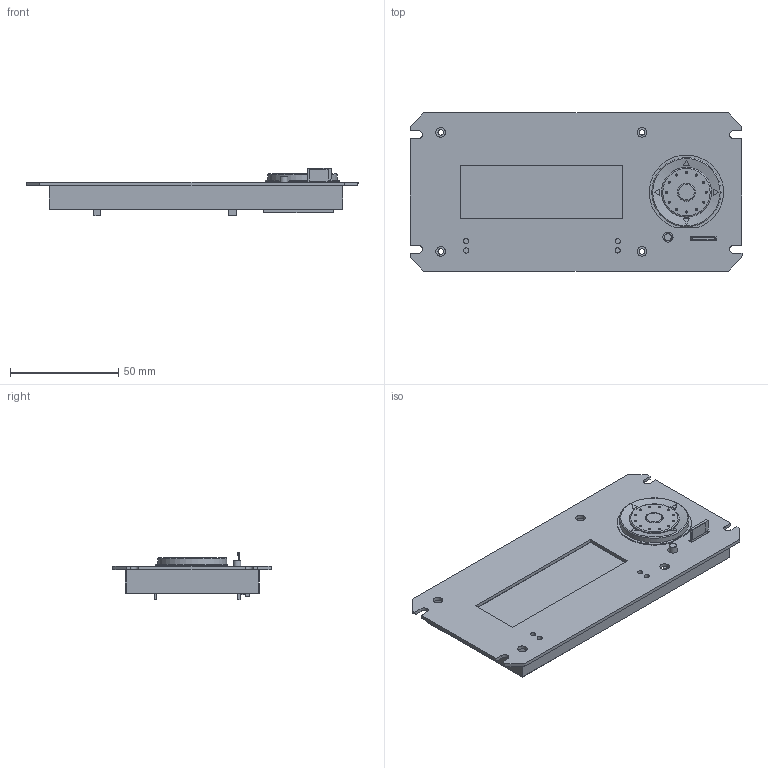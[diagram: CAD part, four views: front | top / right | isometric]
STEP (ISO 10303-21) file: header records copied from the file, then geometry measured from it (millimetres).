
FILE_DESCRIPTION((''),'2;1');
FILE_NAME('J:\_PROJECTS\RepRap\LCD\ViKi LCD.stp','2013-01-14T23:31:16',('roy'),(''),'Autodesk Inventor 2012','Autodesk Inventor 2012','');
FILE_SCHEMA(('AUTOMOTIVE_DESIGN { 1 0 10303 214 1 1 1 1 }'));
Length unit declared in the file: inch
Products named in the file (12): LCD Panel; TSWB-3N-CB222 LFS; JHD20x4; Main PCB; TF slot assm; User Library-Micro_SD; 473093751; 473093751_1; pin_header_a-sl254-dg-g04mp1; TF PCB; FSMRA7JH
Assembly tree (12 placements, depth 4):
  LCD Panel
    TSWB-3N-CB222 LFS
    JHD20x4
    Main PCB
    TF slot assm
      User Library-Micro_SD
      473093751
        473093751
        473093751_1
      pin_header_a-sl254-dg-g04mp1  x2
      TF PCB
      FSMRA7JH
Bounding box: 153.42 x 73.15 x 22.06 mm (x, y, z)
Volume: 65917.8 mm3; surface area: 48609.2 mm2
Topology: 10 solids, 10 shells, 1792 faces, 5254 edges, 3669 vertices
Faces by surface type: plane 1355, cylinder 291, bspline 132, torus 9, cone 5
Full cylindrical faces by diameter (mm): 0.233 x1, 0.411 x1, 0.94 x4, 0.95 x16, 2.398 x4, 2.5 x4, 3.505 x1, 4.445 x4, 4.686 x1, 8.1 x1, 8.306 x1, 22.9 x1, 23.124 x1, 31.951 x1, 32 x1
Entity records: 62028 total; most frequent: CARTESIAN_POINT 15624, ORIENTED_EDGE 9384, DIRECTION 8359, EDGE_CURVE 4692, VECTOR 3967, LINE 3967, VERTEX_POINT 3120, AXIS2_PLACEMENT_3D 2196
